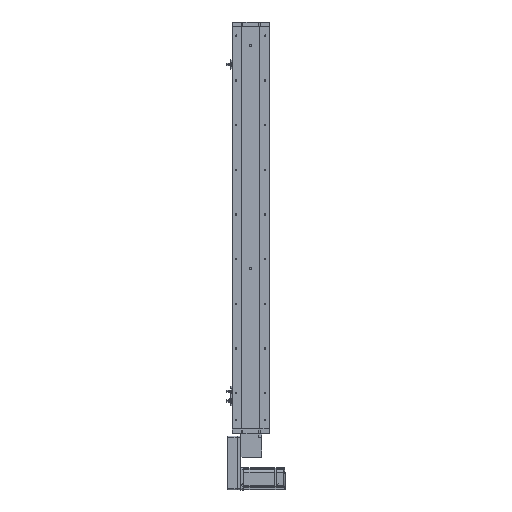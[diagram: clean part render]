
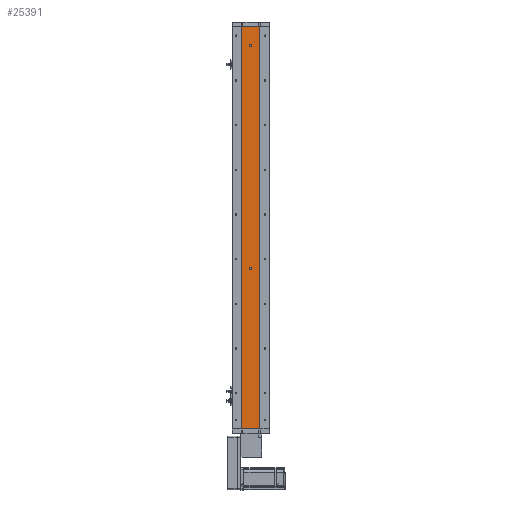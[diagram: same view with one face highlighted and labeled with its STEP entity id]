
A CAD part, left-side view. The second image highlights one B-rep face of the part: STEP entity #25391.
In plain terms, the highlighted planar face has unit normal (-1, 0, 0).
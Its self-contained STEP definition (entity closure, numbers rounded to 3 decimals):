
#551 = EDGE_LOOP ( 'NONE', ( #2041, #10149 ) ) ;
#1677 = LINE ( 'NONE', #66620, #14217 ) ;
#2041 = ORIENTED_EDGE ( 'NONE', *, *, #5984, .F. ) ;
#2266 = DIRECTION ( 'NONE',  ( -1., 0., 0. ) ) ;
#2617 = DIRECTION ( 'NONE',  ( -1., 0., 0. ) ) ;
#2703 = EDGE_CURVE ( 'NONE', #9224, #61527, #60302, .T. ) ;
#3077 = DIRECTION ( 'NONE',  ( -1., 0., 0. ) ) ;
#4036 = CARTESIAN_POINT ( 'NONE',  ( -18.926, 24.785, 0. ) ) ;
#5984 = EDGE_CURVE ( 'NONE', #35547, #68697, #63954, .T. ) ;
#6520 = ORIENTED_EDGE ( 'NONE', *, *, #65630, .F. ) ;
#6848 = VERTEX_POINT ( 'NONE', #14545 ) ;
#9224 = VERTEX_POINT ( 'NONE', #57448 ) ;
#9705 = EDGE_LOOP ( 'NONE', ( #43519, #26442, #6520, #20326 ) ) ;
#10149 = ORIENTED_EDGE ( 'NONE', *, *, #41682, .F. ) ;
#11036 = LINE ( 'NONE', #38598, #25216 ) ;
#11358 = VERTEX_POINT ( 'NONE', #4036 ) ;
#14217 = VECTOR ( 'NONE', #39959, 1000. ) ;
#14545 = CARTESIAN_POINT ( 'NONE',  ( -18.926, -24.785, 0. ) ) ;
#15448 = PLANE ( 'NONE',  #23381 ) ;
#17434 = AXIS2_PLACEMENT_3D ( 'NONE', #28042, #65482, #33419 ) ;
#19887 = CIRCLE ( 'NONE', #67236, 3. ) ;
#20326 = ORIENTED_EDGE ( 'NONE', *, *, #65250, .T. ) ;
#20703 = VERTEX_POINT ( 'NONE', #27951 ) ;
#21808 = EDGE_CURVE ( 'NONE', #64730, #6848, #11036, .T. ) ;
#21898 = VECTOR ( 'NONE', #67585, 1000. ) ;
#23381 = AXIS2_PLACEMENT_3D ( 'NONE', #63829, #31792, #69165 ) ;
#23537 = LINE ( 'NONE', #67346, #21898 ) ;
#25216 = VECTOR ( 'NONE', #65243, 1000. ) ;
#25391 = ADVANCED_FACE ( 'NONE', ( #43418, #41728, #55955 ), #15448, .F. ) ;
#26248 = ORIENTED_EDGE ( 'NONE', *, *, #2703, .F. ) ;
#26442 = ORIENTED_EDGE ( 'NONE', *, *, #21808, .F. ) ;
#27364 = CIRCLE ( 'NONE', #27444, 3. ) ;
#27444 = AXIS2_PLACEMENT_3D ( 'NONE', #35079, #3077, #40451 ) ;
#27951 = CARTESIAN_POINT ( 'NONE',  ( -18.926, 24.785, 1080. ) ) ;
#28042 = CARTESIAN_POINT ( 'NONE',  ( -18.926, 0., 430. ) ) ;
#30723 = CARTESIAN_POINT ( 'NONE',  ( -18.926, -24.785, 1080. ) ) ;
#30789 = ORIENTED_EDGE ( 'NONE', *, *, #41628, .F. ) ;
#31792 = DIRECTION ( 'NONE',  ( 1., 0., 0. ) ) ;
#32879 = VECTOR ( 'NONE', #64288, 1000. ) ;
#33419 = DIRECTION ( 'NONE',  ( 0., 0., 1. ) ) ;
#34190 = CARTESIAN_POINT ( 'NONE',  ( -18.926, 0., 427. ) ) ;
#34256 = CARTESIAN_POINT ( 'NONE',  ( -18.926, 0., 1030. ) ) ;
#34558 = LINE ( 'NONE', #48197, #32879 ) ;
#34591 = CARTESIAN_POINT ( 'NONE',  ( -18.926, 0., 430. ) ) ;
#35079 = CARTESIAN_POINT ( 'NONE',  ( -18.926, 0., 1030. ) ) ;
#35547 = VERTEX_POINT ( 'NONE', #62112 ) ;
#38598 = CARTESIAN_POINT ( 'NONE',  ( -18.926, -24.785, 1080. ) ) ;
#39641 = DIRECTION ( 'NONE',  ( 0., 0., 1. ) ) ;
#39959 = DIRECTION ( 'NONE',  ( 0., -1., 0. ) ) ;
#39988 = DIRECTION ( 'NONE',  ( 0., 0., 1. ) ) ;
#40451 = DIRECTION ( 'NONE',  ( 0., 0., 1. ) ) ;
#40824 = EDGE_LOOP ( 'NONE', ( #26248, #30789 ) ) ;
#41628 = EDGE_CURVE ( 'NONE', #61527, #9224, #19887, .T. ) ;
#41682 = EDGE_CURVE ( 'NONE', #68697, #35547, #27364, .T. ) ;
#41728 = FACE_BOUND ( 'NONE', #551, .T. ) ;
#42622 = AXIS2_PLACEMENT_3D ( 'NONE', #34256, #2266, #39641 ) ;
#43418 = FACE_BOUND ( 'NONE', #40824, .T. ) ;
#43519 = ORIENTED_EDGE ( 'NONE', *, *, #57474, .T. ) ;
#48197 = CARTESIAN_POINT ( 'NONE',  ( -18.926, 24.785, 0. ) ) ;
#55955 = FACE_OUTER_BOUND ( 'NONE', #9705, .T. ) ;
#57448 = CARTESIAN_POINT ( 'NONE',  ( -18.926, 0., 433. ) ) ;
#57474 = EDGE_CURVE ( 'NONE', #11358, #6848, #34558, .T. ) ;
#58179 = CARTESIAN_POINT ( 'NONE',  ( -18.926, 0., 1027. ) ) ;
#60302 = CIRCLE ( 'NONE', #17434, 3. ) ;
#61527 = VERTEX_POINT ( 'NONE', #34190 ) ;
#62112 = CARTESIAN_POINT ( 'NONE',  ( -18.926, 0., 1033. ) ) ;
#63829 = CARTESIAN_POINT ( 'NONE',  ( -18.926, 24.785, 1080. ) ) ;
#63954 = CIRCLE ( 'NONE', #42622, 3. ) ;
#64288 = DIRECTION ( 'NONE',  ( 0., -1., 0. ) ) ;
#64730 = VERTEX_POINT ( 'NONE', #30723 ) ;
#65243 = DIRECTION ( 'NONE',  ( 0., 0., -1. ) ) ;
#65250 = EDGE_CURVE ( 'NONE', #20703, #11358, #23537, .T. ) ;
#65482 = DIRECTION ( 'NONE',  ( -1., 0., 0. ) ) ;
#65630 = EDGE_CURVE ( 'NONE', #20703, #64730, #1677, .T. ) ;
#66620 = CARTESIAN_POINT ( 'NONE',  ( -18.926, 24.785, 1080. ) ) ;
#67236 = AXIS2_PLACEMENT_3D ( 'NONE', #34591, #2617, #39988 ) ;
#67346 = CARTESIAN_POINT ( 'NONE',  ( -18.926, 24.785, 1080. ) ) ;
#67585 = DIRECTION ( 'NONE',  ( 0., 0., -1. ) ) ;
#68697 = VERTEX_POINT ( 'NONE', #58179 ) ;
#69165 = DIRECTION ( 'NONE',  ( 0., 0., -1. ) ) ;
